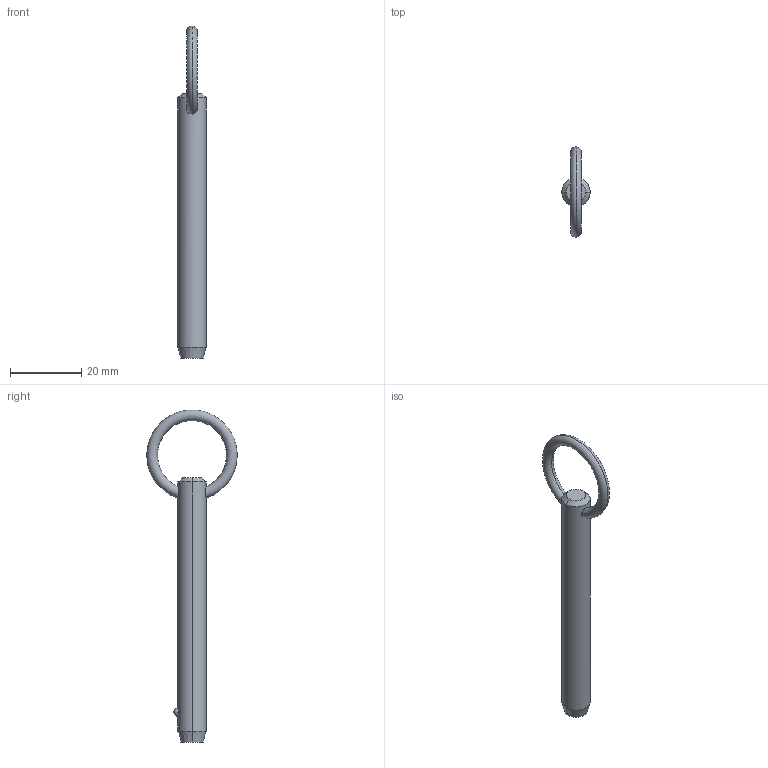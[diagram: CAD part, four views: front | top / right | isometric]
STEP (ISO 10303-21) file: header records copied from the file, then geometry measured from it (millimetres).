
FILE_DESCRIPTION (( 'STEP AP203' ), '1' );
FILE_NAME ('P1250.031-230.step', '2019-07-29T19:51:18', ( '' ), ( '' ), 'SwSTEP 2.0', 'SolidWorks 2017', '' );
FILE_SCHEMA (( 'CONFIG_CONTROL_DESIGN' ));
Length unit declared in the file: millimetre
Products named in the file (1): P1250.031-230
Bounding box: 7.93 x 25.36 x 93.3 mm (x, y, z)
Volume: 4068.7 mm3; surface area: 2485.6 mm2
Topology: 1 solids, 1 shells, 12 faces, 28 edges, 17 vertices
Faces by surface type: cone 4, torus 2, sphere 2, cylinder 2, plane 2
Entity records: 509 total; most frequent: CARTESIAN_POINT 176, DIRECTION 56, ORIENTED_EDGE 48, AXIS2_PLACEMENT_3D 25, EDGE_CURVE 24, EDGE_LOOP 15, VERTEX_POINT 15, CIRCLE 12
